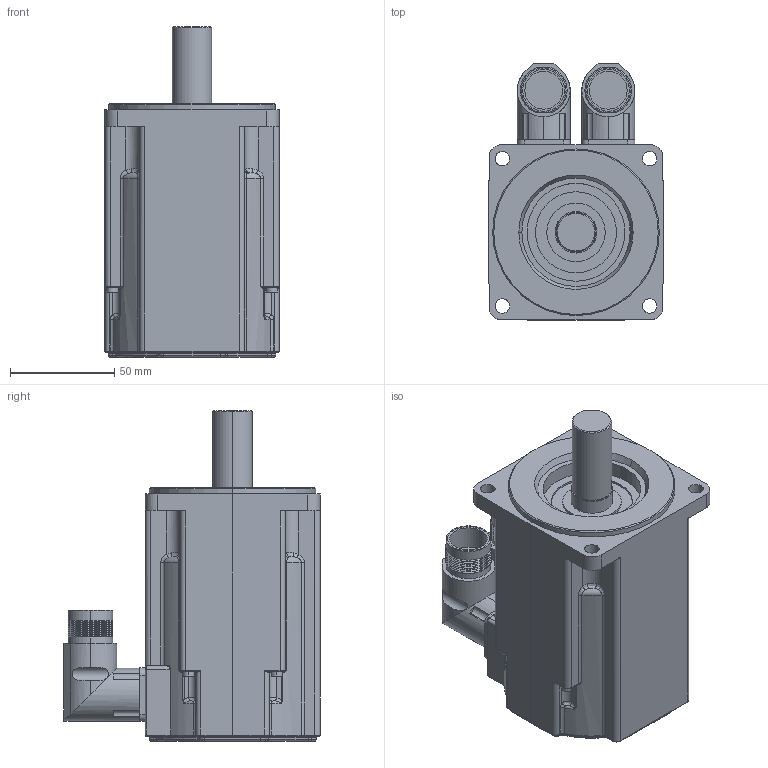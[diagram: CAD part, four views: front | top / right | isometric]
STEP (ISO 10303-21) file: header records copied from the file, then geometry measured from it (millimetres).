
FILE_DESCRIPTION (( 'STEP AP214' ), '1' );
FILE_NAME ('MR7741-Ux-Nxx-G01-A0D-M0-P0.stp', '2009-04-08T13:46:00', ( 'sysAdmin' ), ( 'SolidWorks' ), 'SwSTEP 2.0', 'SolidWorks 2009', '' );
FILE_SCHEMA (( 'AUTOMOTIVE_DESIGN' ));
Length unit declared in the file: millimetre
Products named in the file (1): MR7741-Ux-Nxx-G01-A0D-M0-P0
Bounding box: 84 x 123 x 158.8 mm (x, y, z)
Volume: 785607.2 mm3; surface area: 68714.8 mm2
Topology: 1 solids, 1 shells, 578 faces, 1382 edges, 812 vertices
Faces by surface type: cylinder 202, plane 120, cone 104, torus 96, bspline 54, sphere 2
Entity records: 25609 total; most frequent: CARTESIAN_POINT 6597, DIRECTION 2776, ORIENTED_EDGE 2732, EDGE_CURVE 1366, AXIS2_PLACEMENT_3D 1187, VERTEX_POINT 812, CIRCLE 662, EDGE_LOOP 608
